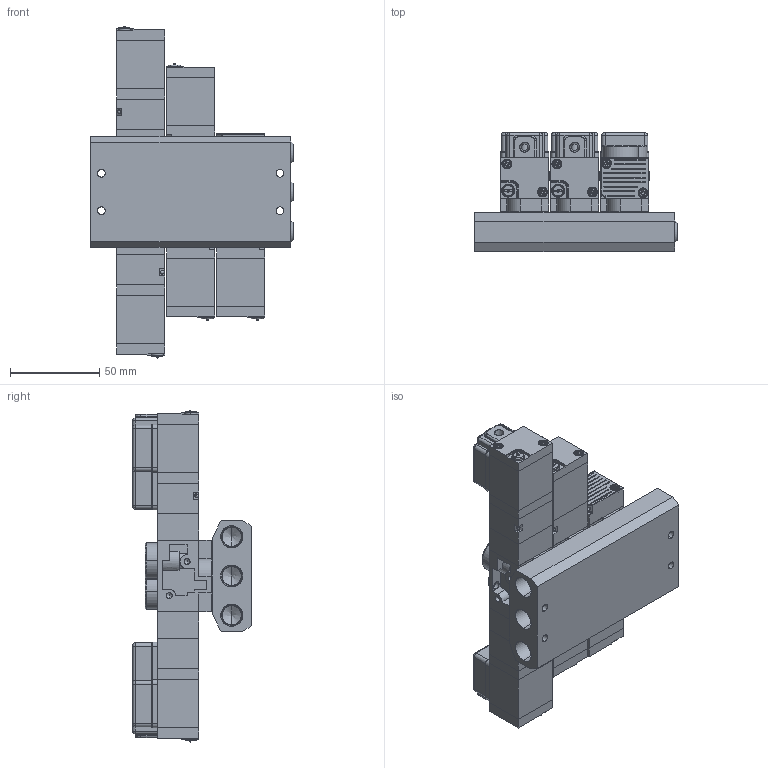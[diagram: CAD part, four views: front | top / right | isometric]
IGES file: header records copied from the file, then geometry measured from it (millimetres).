
Start section: SolidWorks IGES file using analytic representation for surfaces
Global section: file name: D:\Custom\3D繪製\PC\RC06\MFU#-RC06-02-G.IGS,1; native system: 5HSolidWorks 2014; preprocessor: SolidWorks 2014; author: Chieh_Lu; date: 150820.104836; units: millimetre
Bounding box: 113.51 x 66.5 x 185.95 mm (x, y, z)
Surface area: 141010.7 mm2 (no closed solid volume)
Topology: 0 solids, 0 shells, 2080 faces, 20393 edges, 20242 vertices
Faces by surface type: bspline 1210, revolution 870
